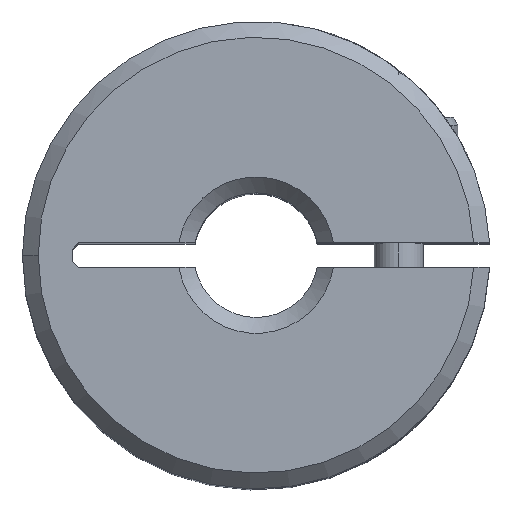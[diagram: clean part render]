
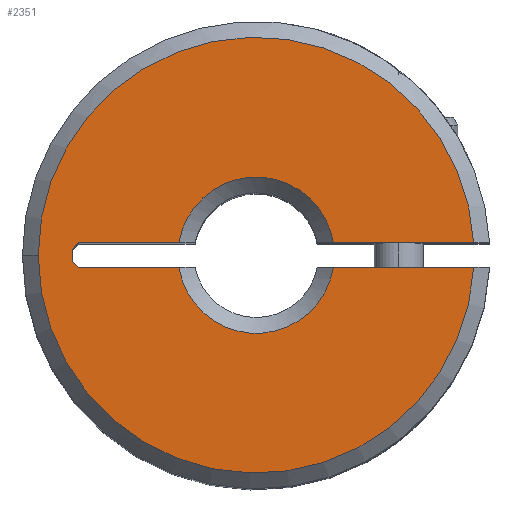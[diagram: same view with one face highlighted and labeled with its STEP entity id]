
A CAD part, top view. The second image highlights one B-rep face of the part: STEP entity #2351.
In plain terms, the highlighted planar face has unit normal (0, 0, 1).
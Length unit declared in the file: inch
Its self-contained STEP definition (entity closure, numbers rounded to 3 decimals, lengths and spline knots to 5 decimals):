
#165=DIRECTION('',(-0.707,0.707,0.));
#166=VECTOR('',#165,0.01096);
#167=CARTESIAN_POINT('',(-0.22426,-0.0155,0.43307));
#168=LINE('',#167,#166);
#169=DIRECTION('',(-1.,0.,0.));
#170=VECTOR('',#169,0.12674);
#171=CARTESIAN_POINT('',(-0.09752,-0.0155,
0.43307));
#172=LINE('',#171,#170);
#173=CARTESIAN_POINT('',(0.,0.,0.43307));
#174=DIRECTION('',(0.,0.,-1.));
#175=DIRECTION('',(0.988,-0.157,0.));
#176=AXIS2_PLACEMENT_3D('',#173,#174,#175);
#178=DIRECTION('',(-1.,0.,0.));
#179=VECTOR('',#178,0.17732);
#180=CARTESIAN_POINT('',(0.27484,-0.0155,0.43307));
#181=LINE('',#180,#179);
#182=CARTESIAN_POINT('',(0.,0.,0.43307));
#183=DIRECTION('',(0.,0.,1.));
#184=DIRECTION('',(0.998,0.056,0.));
#185=AXIS2_PLACEMENT_3D('',#182,#183,#184);
#187=DIRECTION('',(1.,0.,0.));
#188=VECTOR('',#187,0.17732);
#189=CARTESIAN_POINT('',(0.09752,0.0155,
0.43307));
#190=LINE('',#189,#188);
#191=CARTESIAN_POINT('',(0.,0.,0.43307));
#192=DIRECTION('',(0.,0.,-1.));
#193=DIRECTION('',(-0.988,0.157,0.));
#194=AXIS2_PLACEMENT_3D('',#191,#192,#193);
#196=DIRECTION('',(1.,0.,0.));
#197=VECTOR('',#196,0.12674);
#198=CARTESIAN_POINT('',(-0.22426,0.0155,0.43307));
#199=LINE('',#198,#197);
#200=DIRECTION('',(0.707,0.707,0.));
#201=VECTOR('',#200,0.01096);
#202=CARTESIAN_POINT('',(-0.23201,0.00775,
0.43307));
#203=LINE('',#202,#201);
#204=DIRECTION('',(0.,1.,0.));
#205=VECTOR('',#204,0.0155);
#206=CARTESIAN_POINT('',(-0.23201,-0.00775,
0.43307));
#207=LINE('',#206,#205);
#727=CARTESIAN_POINT('',(0.27484,0.0155,0.43307));
#738=CARTESIAN_POINT('',(0.,0.,0.43307));
#739=DIRECTION('',(0.,0.,1.));
#740=DIRECTION('',(-1.,0.,0.));
#741=AXIS2_PLACEMENT_3D('',#738,#739,#740);
#1719=VERTEX_POINT('',#727);
#1720=CARTESIAN_POINT('',(-0.22426,-0.0155,0.43307));
#1721=CARTESIAN_POINT('',(-0.23201,-0.00775,
0.43307));
#1722=VERTEX_POINT('',#1720);
#1723=VERTEX_POINT('',#1721);
#1724=CARTESIAN_POINT('',(-0.09752,-0.0155,
0.43307));
#1725=VERTEX_POINT('',#1724);
#1726=CARTESIAN_POINT('',(0.09752,-0.0155,0.43307));
#1727=VERTEX_POINT('',#1726);
#1728=CARTESIAN_POINT('',(0.27484,-0.0155,0.43307));
#1729=VERTEX_POINT('',#1728);
#1730=CARTESIAN_POINT('',(-0.27528,0.,0.43307));
#1731=VERTEX_POINT('',#1730);
#1732=CARTESIAN_POINT('',(0.09752,0.0155,
0.43307));
#1733=VERTEX_POINT('',#1732);
#1734=CARTESIAN_POINT('',(-0.09752,0.0155,0.43307));
#1735=VERTEX_POINT('',#1734);
#1736=CARTESIAN_POINT('',(-0.22426,0.0155,0.43307));
#1737=VERTEX_POINT('',#1736);
#1738=CARTESIAN_POINT('',(-0.23201,0.00775,
0.43307));
#1739=VERTEX_POINT('',#1738);
#2323=CARTESIAN_POINT('',(0.,0.,0.43307));
#2324=DIRECTION('',(0.,0.,1.));
#2325=DIRECTION('',(1.,0.,0.));
#2326=AXIS2_PLACEMENT_3D('',#2323,#2324,#2325);
#2327=PLANE('',#2326);
#2329=ORIENTED_EDGE('',*,*,#2328,.F.);
#2331=ORIENTED_EDGE('',*,*,#2330,.F.);
#2333=ORIENTED_EDGE('',*,*,#2332,.F.);
#2335=ORIENTED_EDGE('',*,*,#2334,.F.);
#2337=ORIENTED_EDGE('',*,*,#2336,.F.);
#2339=ORIENTED_EDGE('',*,*,#2338,.F.);
#2341=ORIENTED_EDGE('',*,*,#2340,.F.);
#2343=ORIENTED_EDGE('',*,*,#2342,.F.);
#2344=ORIENTED_EDGE('',*,*,#2302,.F.);
#2346=ORIENTED_EDGE('',*,*,#2345,.F.);
#2348=ORIENTED_EDGE('',*,*,#2347,.F.);
#2349=EDGE_LOOP('',(#2329,#2331,#2333,#2335,#2337,#2339,#2341,#2343,#2344,#2346,
#2348));
#2350=FACE_OUTER_BOUND('',#2349,.F.);
#177=CIRCLE('',#176,0.09874);
#186=CIRCLE('',#185,0.27528);
#195=CIRCLE('',#194,0.09874);
#742=CIRCLE('',#741,0.27528);
#2302=EDGE_CURVE('',#1737,#1735,#199,.T.);
#2328=EDGE_CURVE('',#1722,#1723,#168,.T.);
#2330=EDGE_CURVE('',#1725,#1722,#172,.T.);
#2332=EDGE_CURVE('',#1727,#1725,#177,.T.);
#2334=EDGE_CURVE('',#1729,#1727,#181,.T.);
#2336=EDGE_CURVE('',#1731,#1729,#742,.T.);
#2338=EDGE_CURVE('',#1719,#1731,#186,.T.);
#2340=EDGE_CURVE('',#1733,#1719,#190,.T.);
#2342=EDGE_CURVE('',#1735,#1733,#195,.T.);
#2345=EDGE_CURVE('',#1739,#1737,#203,.T.);
#2347=EDGE_CURVE('',#1723,#1739,#207,.T.);
#2351=ADVANCED_FACE('',(#2350),#2327,.T.);
